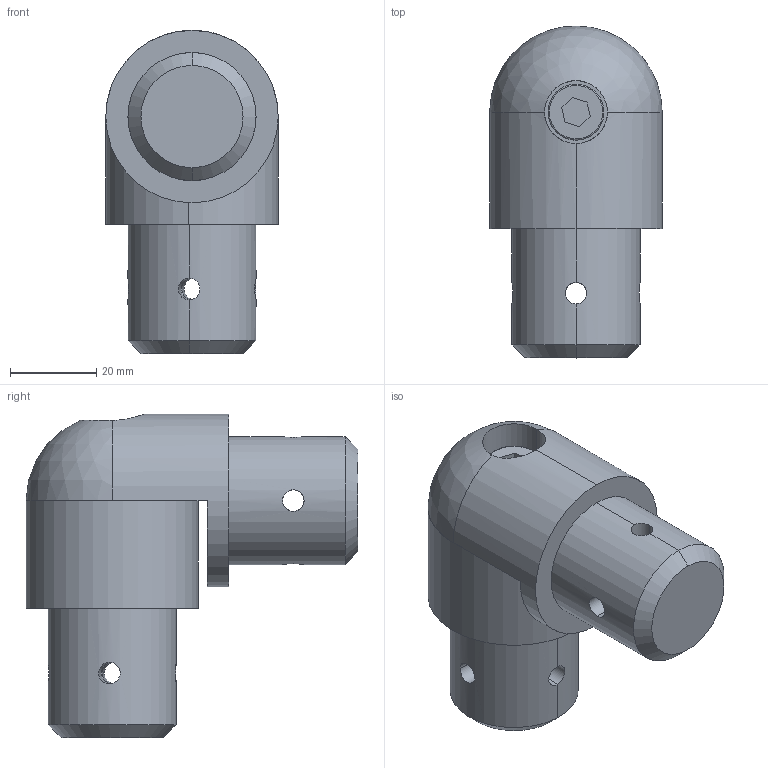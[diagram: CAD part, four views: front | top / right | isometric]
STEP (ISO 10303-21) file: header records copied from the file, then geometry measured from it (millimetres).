
FILE_DESCRIPTION (( 'STEP AP214' ), '1' );
FILE_NAME ('084.313.106.STEP', '2019-11-11T10:45:30', ( '' ), ( '' ), 'SwSTEP 2.0', 'SolidWorks 2018', '' );
FILE_SCHEMA (( 'AUTOMOTIVE_DESIGN' ));
Length unit declared in the file: millimetre
Products named in the file (4): 084.313.106; 084.313.011-L; 084.301.000 VITI ALUSIC_084.301.003; 084.313.001-L
Assembly tree (3 placements, depth 2):
  084.313.106
    084.313.001-L
    084.313.011-L
    084.301.000 VITI ALUSIC_084.301.003
Bounding box: 40 x 77 x 75 mm (x, y, z)
Volume: 96854.4 mm3; surface area: 21155.6 mm2
Topology: 3 solids, 3 shells, 63 faces, 155 edges, 93 vertices
Faces by surface type: cylinder 34, plane 18, cone 8, torus 2, sphere 1
Entity records: 2685 total; most frequent: CARTESIAN_POINT 893, ORIENTED_EDGE 306, DIRECTION 301, EDGE_CURVE 153, AXIS2_PLACEMENT_3D 117, VERTEX_POINT 93, EDGE_LOOP 74, LINE 67
